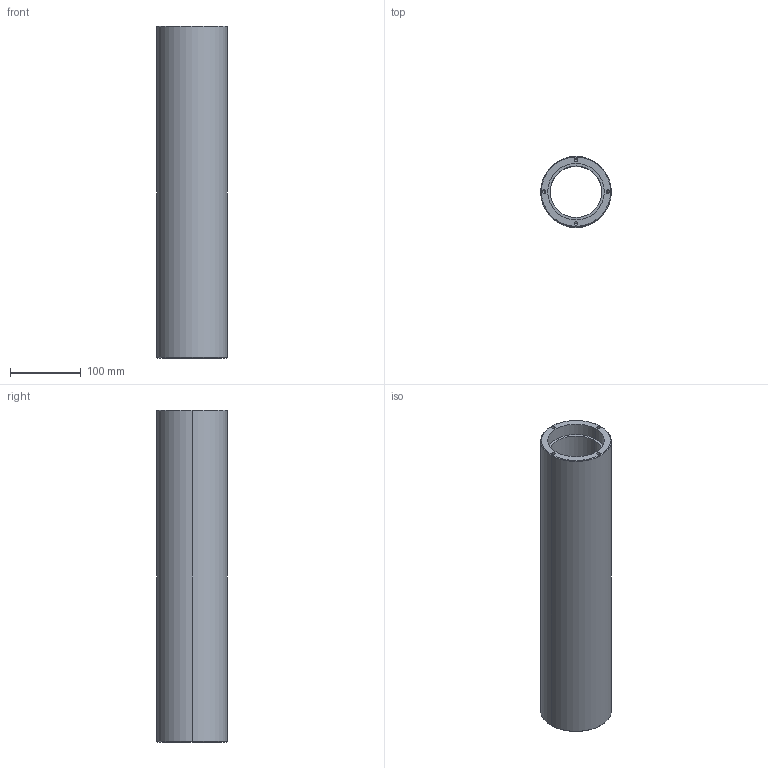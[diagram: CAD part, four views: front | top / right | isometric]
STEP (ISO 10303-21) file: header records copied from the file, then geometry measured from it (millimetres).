
FILE_DESCRIPTION (( 'STEP AP203' ), '1' );
FILE_NAME ('YWSD-2026-03-01-02=002 驱动连接管.STEP', '2026-07-24T07:31:02', ( 'Windows 用户' ), ( '' ), 'SwSTEP 2.0', 'SolidWorks 2024', '' );
FILE_SCHEMA (( 'CONFIG_CONTROL_DESIGN' ));
Length unit declared in the file: millimetre
Products named in the file (1): YWSD-2026-03-01-02=002 驱动连接管
Bounding box: 100 x 100 x 470 mm (x, y, z)
Volume: 1692428.3 mm3; surface area: 264156.7 mm2
Topology: 1 solids, 1 shells, 32 faces, 72 edges, 40 vertices
Faces by surface type: cylinder 16, cone 12, plane 4
Entity records: 921 total; most frequent: DIRECTION 166, CARTESIAN_POINT 137, ORIENTED_EDGE 128, AXIS2_PLACEMENT_3D 69, EDGE_CURVE 64, EDGE_LOOP 40, VERTEX_POINT 40, CIRCLE 36
